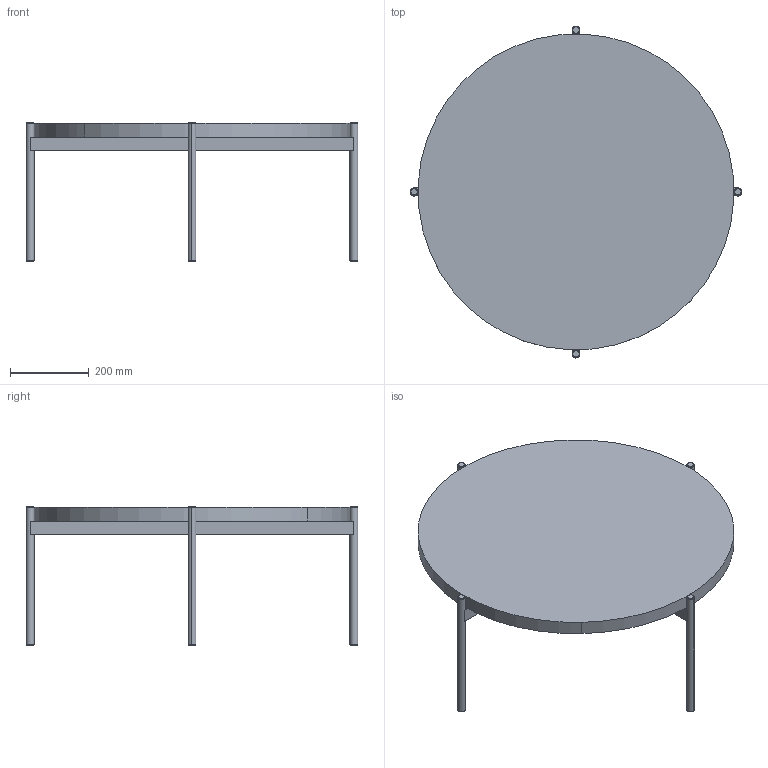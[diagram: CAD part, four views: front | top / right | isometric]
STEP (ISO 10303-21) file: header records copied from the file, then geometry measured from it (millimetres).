
FILE_DESCRIPTION(/* description */ (''),/* implementation_level */ '2;1');
FILE_NAME(/* name */ 'DR36S9~D',/* time_stamp */ '2022-08-18T08:04:37+02:00',/* author */ (''),/* organization */ (''),/* preprocessor_version */ 'ST-DEVELOPER v16.5',/* originating_system */ '',/* authorisation */ '');
FILE_SCHEMA (('AUTOMOTIVE_DESIGN'));
Length unit declared in the file: millimetre
Products named in the file (1): Document
Bounding box: 840 x 840 x 352 mm (x, y, z)
Volume: 19228599.8 mm3; surface area: 1368608.7 mm2
Topology: 7 solids, 7 shells, 48 faces, 87 edges, 53 vertices
Faces by surface type: bspline 26, plane 22
Entity records: 1289 total; most frequent: CARTESIAN_POINT 626, ORIENTED_EDGE 172, EDGE_CURVE 86, VERTEX_POINT 52, ADVANCED_FACE 48, FACE_OUTER_BOUND 48, EDGE_LOOP 48, B_SPLINE_CURVE_WITH_KNOTS 44
